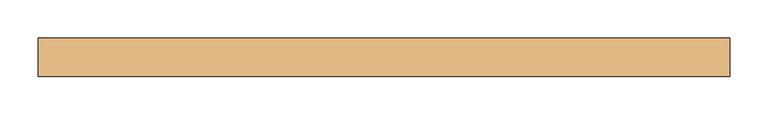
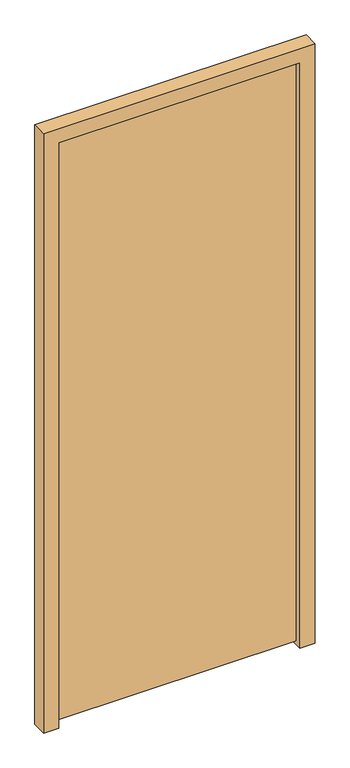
"""IFC4 building model written with IfcOpenShell, lengths in millimetres: door geometry, Dr_Дверь_v2.1 : ДВДГ 21-9_выполняется собственником."""

from ifc_helpers import new_model, si_unit, frame, origin, place, context, project, spatial, polyline, outline, extrude, source, transform, mapped, element, save


def door_2d8a829e(model_context):
    return source(origin(), model_context, "Body", "SweptSolid", [
        extrude(outline(polyline([(0.0, -275.0), (2050.0, -275.0), (2050.0, 525.0), (0.0, 525.0), (0.0, 575.0), (2100.0, 575.0), (2100.0, -325.0), (0.0, -325.0), (0.0, -275.0)])), frame((0.0, -62.5, 0.0), z_axis=(0.0, 1.0, 0.0), x_axis=(0.0, 0.0, 1.0)), (0.0, 0.0, 1.0), 50.0),
        extrude(outline(polyline([(-275.0, -42.5), (-275.0, -12.5), (525.0, -12.5), (525.0, -42.5), (-275.0, -42.5)])), frame((0.0, 0.0, 14.0), z_axis=(0.0, 0.0, 1.0), x_axis=(1.0, 0.0, 0.0)), (0.0, 0.0, 1.0), 2036.0),
    ])


if __name__ == "__main__":
    model = new_model("IFC4")
    model_context = context("Model", 3, world=origin())
    ifc_project = project(units=[si_unit("LENGTHUNIT", "METRE", prefix="MILLI")], contexts=[model_context])
    site = spatial("IfcSite", under=ifc_project)
    building = spatial("IfcBuilding", under=site)
    placement = place(None, origin())
    door_shape = door_2d8a829e(model_context)
    element("IfcDoor", 1, ObjectType="Dr_Дверь_v2.1 : ДВДГ 21-9_выполняется собственником", at=placement, inside=building, context=model_context, shape_type="MappedRepresentation", body=[
        mapped(door_shape, transform((0.0, 0.0, 0.0), x_axis=(1.0, 0.0, 0.0), y_axis=(0.0, 1.0, 0.0), z_axis=(0.0, 0.0, 1.0))),
    ])
    save(model, "model.ifc")
